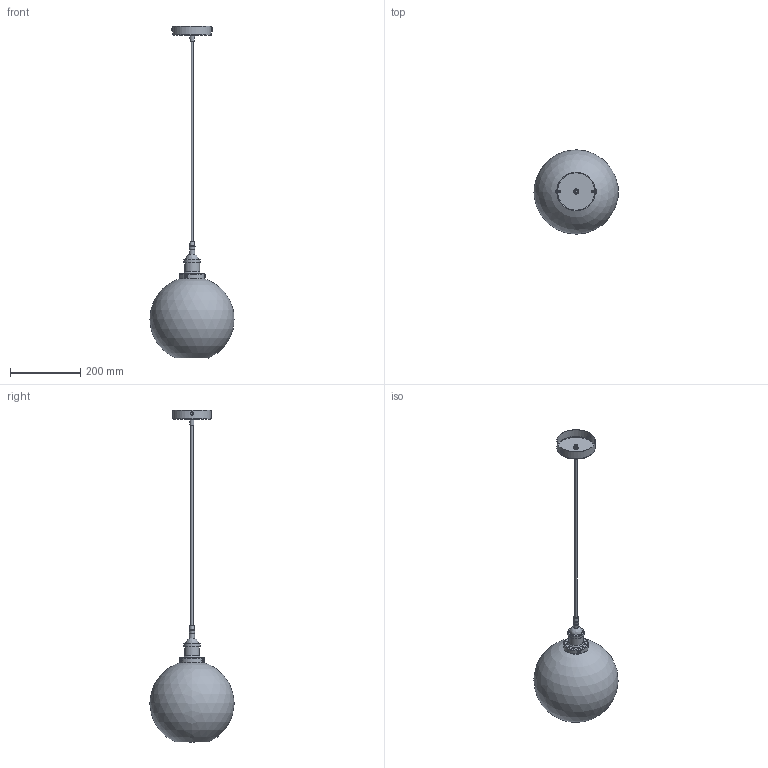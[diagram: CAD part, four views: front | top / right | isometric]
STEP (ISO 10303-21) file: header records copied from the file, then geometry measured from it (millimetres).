
FILE_DESCRIPTION( ( 'STEP AP203' ), '1' );
FILE_NAME( '//srvbf/BF Disegni/KATE/KATE-G Sospensione 3D.stp', '2020-10-16T14:21:28', ( ' ' ), ( ' ' ), 'XStep 1.0', ' ', ' ' );
FILE_SCHEMA( ( 'CONFIG_CONTROL_DESIGN) ( )' ) );
Length unit declared in the file: metre
Products named in the file (17): Assem1; 1; 2; 3; 4; 5; 6; 7; 8; 9; 10; 11; 12; 13; 14; 15; 16
Bounding box: 239.11 x 240 x 943.84 mm (x, y, z)
Volume: 1733563.6 mm3; surface area: 833568.6 mm2
Topology: 32 solids, 32 shells, 626 faces, 1488 edges, 946 vertices
Faces by surface type: cone 234, cylinder 202, plane 140, torus 44, sphere 4, bspline 2
Full cylindrical faces by diameter (mm): 3 x76, 4.5 x24, 6 x6, 7 x4, 8.8 x10, 9 x32, 10 x24, 15 x4, 39.4 x2, 42 x6, 47 x2, 48 x2, 50 x2, 68 x2, 70 x2, 108.4 x2, 110 x2
Entity records: 8131 total; most frequent: CARTESIAN_POINT 1723, DIRECTION 1294, ORIENTED_EDGE 734, AXIS2_PLACEMENT_3D 628, EDGE_LOOP 616, FACE_OUTER_BOUND 439, EDGE_CURVE 367, VERTEX_POINT 341
